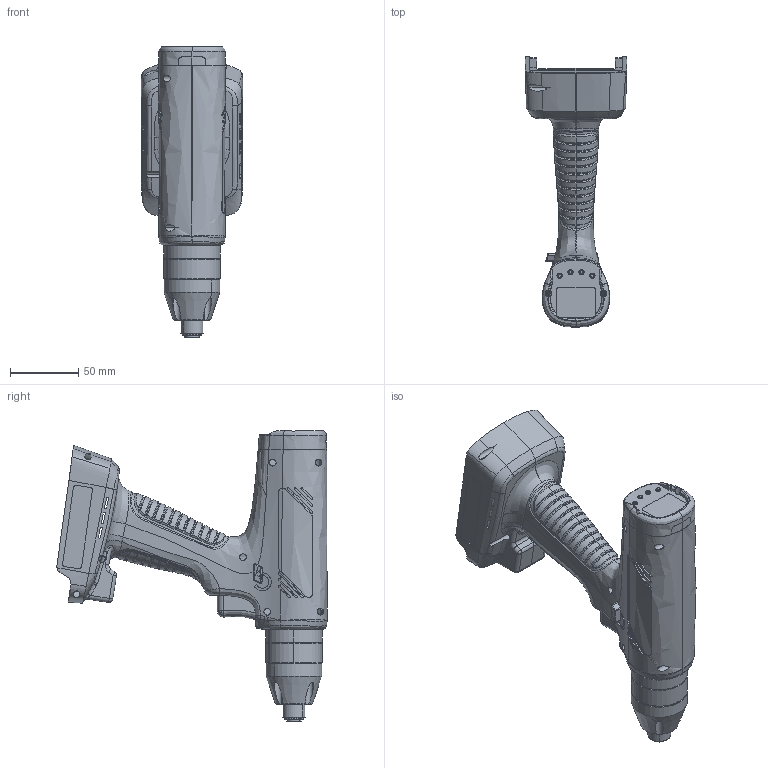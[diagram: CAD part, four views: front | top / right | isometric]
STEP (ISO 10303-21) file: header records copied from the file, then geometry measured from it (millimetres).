
FILE_DESCRIPTION (( 'STEP AP203' ), '1' );
FILE_NAME ('BM3206 (BMT3204,3206)-A 諼睡辨.STEP', '2021-03-03T06:01:14', ( '' ), ( '' ), 'SwSTEP 2.0', 'SolidWorks 2020', '' );
FILE_SCHEMA (( 'CONFIG_CONTROL_DESIGN' ));
Products named in the file (1): BM3206 (BMT3204,3206)-A 諼睡辨
Bounding box: 73.96 x 197.56 x 212.45 mm (x, y, z)
Surface area: 120290.2 mm2 (no closed solid volume)
Topology: 0 solids, 48 shells, 1160 faces, 4280 edges, 3113 vertices
Faces by surface type: bspline 463, plane 328, cylinder 284, cone 40, torus 23, sphere 22
Entity records: 108630 total; most frequent: CARTESIAN_POINT 78571, ORIENTED_EDGE 6824, EDGE_CURVE 4266, DIRECTION 4110, VERTEX_POINT 3111, B_SPLINE_CURVE_WITH_KNOTS 2089, LINE 1372, VECTOR 1372
